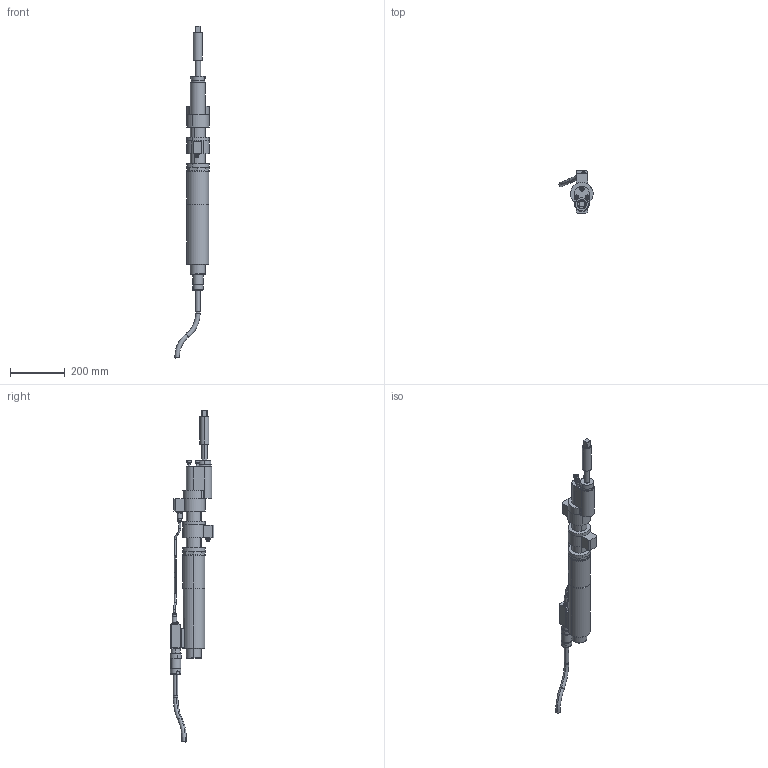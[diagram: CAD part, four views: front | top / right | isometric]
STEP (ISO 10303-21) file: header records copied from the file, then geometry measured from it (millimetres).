
FILE_DESCRIPTION(('CATIA V5 STEP'),'2;1');
FILE_NAME('O:\3D-Schrauber\stp\7920471_ECR334_DWR450_DR450_AO350_AllCATPart.stp','2010-05-05T11:07:57+00:00',('none'),('none'),'CATIA Version 5 Release 19 SP 3 (IN-10)','CATIA V5 STEP AP214','none');
FILE_SCHEMA(('AUTOMOTIVE_DESIGN { 1 0 10303 214 1 1 1 1 }'));
Length unit declared in the file: millimetre
Products named in the file (1): 7920471_ECR334_DWR450_DR450_AO350_AllCATPart
Bounding box: 124.82 x 159.48 x 1214.16 mm (x, y, z)
Volume: 3970526.6 mm3; surface area: 364110.5 mm2
Topology: 21 solids, 21 shells, 456 faces, 984 edges, 615 vertices
Faces by surface type: plane 186, cylinder 166, cone 68, torus 36
Entity records: 11787 total; most frequent: CARTESIAN_POINT 2265, ORIENTED_EDGE 1956, DIRECTION 1656, EDGE_CURVE 978, AXIS2_PLACEMENT_3D 840, VERTEX_POINT 615, EDGE_LOOP 507, CIRCLE 480
